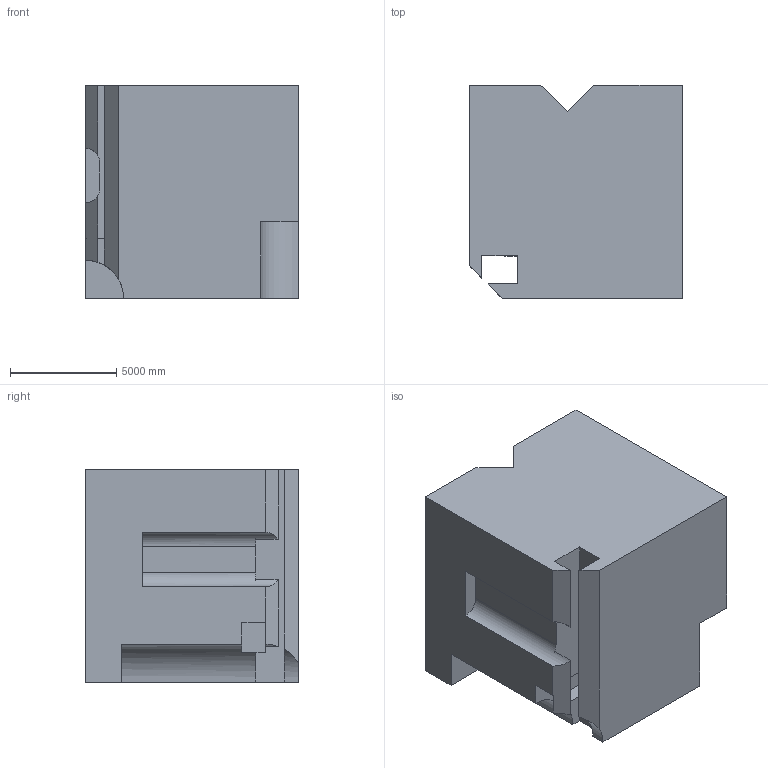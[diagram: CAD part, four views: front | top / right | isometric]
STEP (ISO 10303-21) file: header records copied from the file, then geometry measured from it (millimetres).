
FILE_DESCRIPTION (( 'STEP AP203' ), '1' );
FILE_NAME ('148.STEP', '2022-08-31T11:55:37', ( 'user' ), ( '' ), 'SwSTEP 2.0', 'SolidWorks 2021', '' );
FILE_SCHEMA (( 'CONFIG_CONTROL_DESIGN' ));
Length unit declared in the file: centimetre
Products named in the file (1): 148
Bounding box: 10000 x 10000 x 10000 mm (x, y, z)
Volume: 900609610592.9 mm3; surface area: 672284125 mm2
Topology: 1 solids, 1 shells, 39 faces, 111 edges, 74 vertices
Faces by surface type: plane 33, cylinder 6
Entity records: 1334 total; most frequent: CARTESIAN_POINT 237, ORIENTED_EDGE 222, DIRECTION 199, EDGE_CURVE 111, LINE 95, VECTOR 95, VERTEX_POINT 74, AXIS2_PLACEMENT_3D 52
